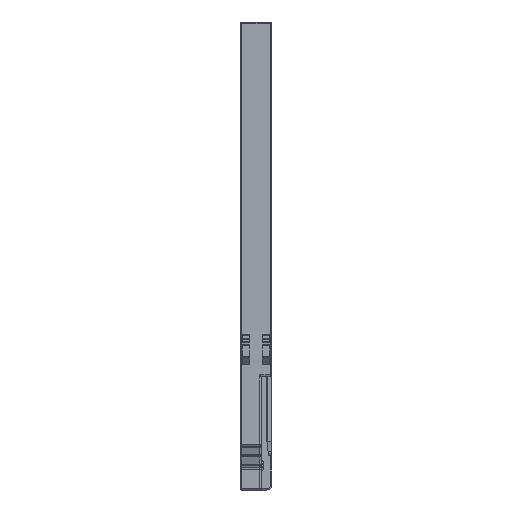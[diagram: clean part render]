
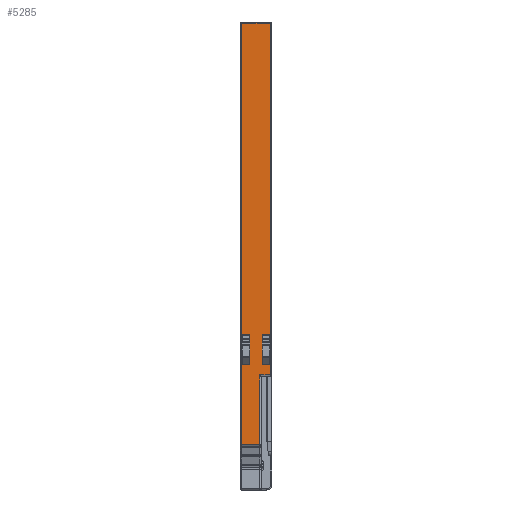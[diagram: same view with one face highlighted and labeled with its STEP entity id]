
A CAD part, left-side view. The second image highlights one B-rep face of the part: STEP entity #5285.
In plain terms, the highlighted planar face has unit normal (-1, 0, 0).
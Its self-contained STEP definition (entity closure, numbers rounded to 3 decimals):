
#219=DIRECTION('',(0.,1.,0.));
#220=VECTOR('',#219,1.5);
#221=CARTESIAN_POINT('',(-52.5,-1.75,-28.7));
#222=LINE('',#221,#220);
#223=DIRECTION('',(0.,1.,0.));
#224=VECTOR('',#223,1.5);
#225=CARTESIAN_POINT('',(-52.5,-1.75,-34.7));
#226=LINE('',#225,#224);
#227=DIRECTION('',(0.,0.,1.));
#228=VECTOR('',#227,6.);
#229=CARTESIAN_POINT('',(-52.5,-1.75,-34.7));
#230=LINE('',#229,#228);
#231=DIRECTION('',(0.,1.,0.));
#232=VECTOR('',#231,1.5);
#233=CARTESIAN_POINT('',(-52.5,2.35,-34.7));
#234=LINE('',#233,#232);
#235=DIRECTION('',(0.,0.,1.));
#236=VECTOR('',#235,6.);
#237=CARTESIAN_POINT('',(-52.5,2.35,-34.7));
#238=LINE('',#237,#236);
#239=DIRECTION('',(0.,1.,0.));
#240=VECTOR('',#239,1.5);
#241=CARTESIAN_POINT('',(-52.5,2.35,-28.7));
#242=LINE('',#241,#240);
#243=DIRECTION('',(0.,0.,1.));
#244=VECTOR('',#243,6.);
#245=CARTESIAN_POINT('',(-52.5,3.85,-34.7));
#246=LINE('',#245,#244);
#247=DIRECTION('',(0.,1.,0.));
#248=VECTOR('',#247,2.2);
#249=CARTESIAN_POINT('',(-52.5,-1.9,-36.9));
#250=LINE('',#249,#248);
#251=DIRECTION('',(0.,1.,0.));
#252=VECTOR('',#251,3.7);
#253=CARTESIAN_POINT('',(-52.5,0.3,-51.2));
#254=LINE('',#253,#252);
#255=DIRECTION('',(0.,1.,0.));
#256=VECTOR('',#255,5.9);
#257=CARTESIAN_POINT('',(-52.5,-1.9,35.2));
#258=LINE('',#257,#256);
#259=DIRECTION('',(0.,0.,-1.));
#260=VECTOR('',#259,72.1);
#261=CARTESIAN_POINT('',(-52.5,-1.9,35.2));
#262=LINE('',#261,#260);
#678=DIRECTION('',(0.,0.,1.));
#679=VECTOR('',#678,6.);
#680=CARTESIAN_POINT('',(-52.5,-0.25,-34.7));
#681=LINE('',#680,#679);
#1766=DIRECTION('',(0.,0.,1.));
#1767=VECTOR('',#1766,14.3);
#1768=CARTESIAN_POINT('',(-52.5,0.3,-51.2));
#1769=LINE('',#1768,#1767);
#1791=DIRECTION('',(0.,0.,-1.));
#1792=VECTOR('',#1791,86.4);
#1793=CARTESIAN_POINT('',(-52.5,4.,35.2));
#1794=LINE('',#1793,#1792);
#3985=CARTESIAN_POINT('',(-52.5,3.85,-34.7));
#3986=CARTESIAN_POINT('',(-52.5,3.85,-28.7));
#3987=VERTEX_POINT('',#3985);
#3988=VERTEX_POINT('',#3986);
#3993=CARTESIAN_POINT('',(-52.5,-1.75,-34.7));
#3994=CARTESIAN_POINT('',(-52.5,-1.75,-28.7));
#3995=VERTEX_POINT('',#3993);
#3996=VERTEX_POINT('',#3994);
#4017=CARTESIAN_POINT('',(-52.5,-0.25,-34.7));
#4018=VERTEX_POINT('',#4017);
#4019=CARTESIAN_POINT('',(-52.5,2.35,-34.7));
#4020=VERTEX_POINT('',#4019);
#4021=CARTESIAN_POINT('',(-52.5,-0.25,-28.7));
#4022=VERTEX_POINT('',#4021);
#4023=CARTESIAN_POINT('',(-52.5,2.35,-28.7));
#4024=VERTEX_POINT('',#4023);
#4565=CARTESIAN_POINT('',(-52.5,-1.9,35.2));
#4566=CARTESIAN_POINT('',(-52.5,4.,35.2));
#4567=VERTEX_POINT('',#4565);
#4568=VERTEX_POINT('',#4566);
#4835=CARTESIAN_POINT('',(-52.5,0.3,-51.2));
#4836=CARTESIAN_POINT('',(-52.5,4.,-51.2));
#4837=VERTEX_POINT('',#4835);
#4838=VERTEX_POINT('',#4836);
#5024=CARTESIAN_POINT('',(-52.5,-1.9,-36.9));
#5025=CARTESIAN_POINT('',(-52.5,0.3,-36.9));
#5026=VERTEX_POINT('',#5024);
#5027=VERTEX_POINT('',#5025);
#5247=CARTESIAN_POINT('',(-52.5,0.,-35.5));
#5248=DIRECTION('',(-1.,0.,0.));
#5249=DIRECTION('',(0.,0.,1.));
#5250=AXIS2_PLACEMENT_3D('',#5247,#5248,#5249);
#5251=PLANE('',#5250);
#5253=ORIENTED_EDGE('',*,*,#5252,.T.);
#5255=ORIENTED_EDGE('',*,*,#5254,.F.);
#5257=ORIENTED_EDGE('',*,*,#5256,.T.);
#5259=ORIENTED_EDGE('',*,*,#5258,.F.);
#5261=ORIENTED_EDGE('',*,*,#5260,.F.);
#5262=ORIENTED_EDGE('',*,*,#5238,.T.);
#5263=EDGE_LOOP('',(#5253,#5255,#5257,#5259,#5261,#5262));
#5264=FACE_OUTER_BOUND('',#5263,.F.);
#5266=ORIENTED_EDGE('',*,*,#5265,.F.);
#5268=ORIENTED_EDGE('',*,*,#5267,.T.);
#5270=ORIENTED_EDGE('',*,*,#5269,.T.);
#5272=ORIENTED_EDGE('',*,*,#5271,.F.);
#5273=EDGE_LOOP('',(#5266,#5268,#5270,#5272));
#5274=FACE_BOUND('',#5273,.F.);
#5276=ORIENTED_EDGE('',*,*,#5275,.T.);
#5278=ORIENTED_EDGE('',*,*,#5277,.F.);
#5280=ORIENTED_EDGE('',*,*,#5279,.F.);
#5282=ORIENTED_EDGE('',*,*,#5281,.T.);
#5283=EDGE_LOOP('',(#5276,#5278,#5280,#5282));
#5284=FACE_BOUND('',#5283,.F.);
#5285=ADVANCED_FACE('',(#5264,#5274,#5284),#5251,.T.);
#5238=EDGE_CURVE('',#4567,#5026,#262,.T.);
#5252=EDGE_CURVE('',#5026,#5027,#250,.T.);
#5254=EDGE_CURVE('',#4837,#5027,#1769,.T.);
#5256=EDGE_CURVE('',#4837,#4838,#254,.T.);
#5258=EDGE_CURVE('',#4568,#4838,#1794,.T.);
#5260=EDGE_CURVE('',#4567,#4568,#258,.T.);
#5265=EDGE_CURVE('',#4020,#3987,#234,.T.);
#5267=EDGE_CURVE('',#4020,#4024,#238,.T.);
#5269=EDGE_CURVE('',#4024,#3988,#242,.T.);
#5271=EDGE_CURVE('',#3987,#3988,#246,.T.);
#5275=EDGE_CURVE('',#3996,#4022,#222,.T.);
#5277=EDGE_CURVE('',#4018,#4022,#681,.T.);
#5279=EDGE_CURVE('',#3995,#4018,#226,.T.);
#5281=EDGE_CURVE('',#3995,#3996,#230,.T.);
